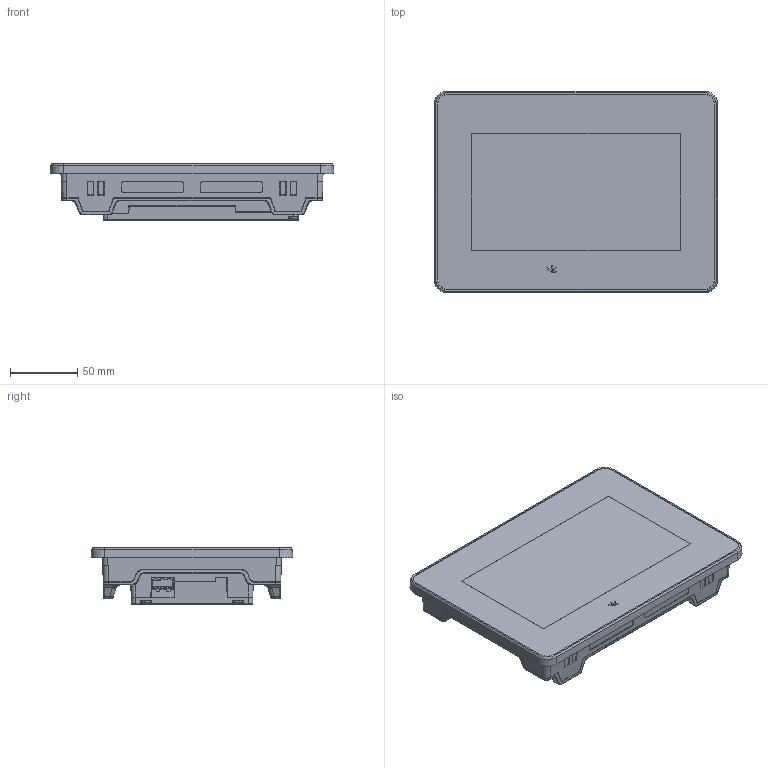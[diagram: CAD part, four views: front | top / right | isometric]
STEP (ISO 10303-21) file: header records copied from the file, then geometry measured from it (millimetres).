
FILE_DESCRIPTION (( 'STEP AP203' ), '1' );
FILE_NAME ('US7 Lite Panel.STEP', '2019-01-22T09:32:31', ( '' ), ( '' ), 'SwSTEP 2.0', 'SolidWorks 2017', '' );
FILE_SCHEMA (( 'CONFIG_CONTROL_DESIGN' ));
Length unit declared in the file: millimetre
Products named in the file (1): US7 Lite Panel
Bounding box: 211.53 x 150.53 x 42.3 mm (x, y, z)
Surface area: 112405.1 mm2 (no closed solid volume)
Topology: 0 solids, 2 shells, 2774 faces, 7510 edges, 4837 vertices
Faces by surface type: plane 1463, bspline 490, cylinder 446, cone 375
Entity records: 121770 total; most frequent: CARTESIAN_POINT 59142, ORIENTED_EDGE 15008, DIRECTION 9844, EDGE_CURVE 7508, VERTEX_POINT 4837, LINE 3836, VECTOR 3836, AXIS2_PLACEMENT_3D 3004
